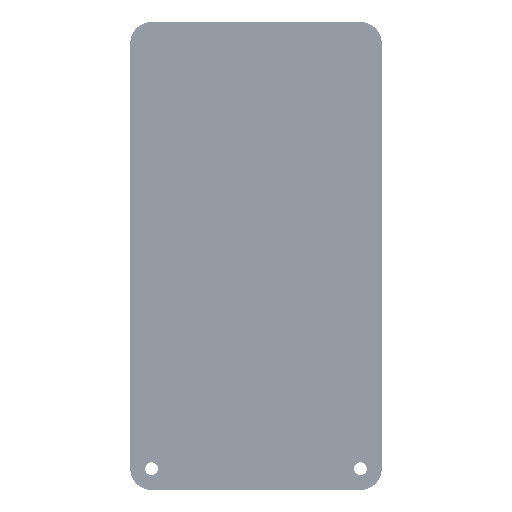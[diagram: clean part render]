
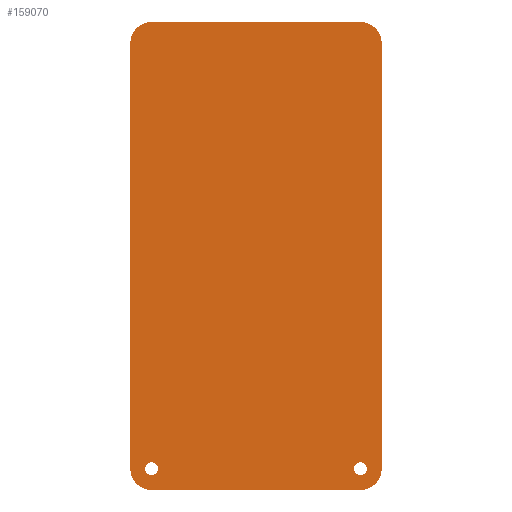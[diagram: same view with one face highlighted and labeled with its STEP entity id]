
A CAD part, front view. The second image highlights one B-rep face of the part: STEP entity #159070.
In plain terms, the highlighted planar face has unit normal (0, -1, 0) as drawn and (0, 0, 1) by its records, which use the part's own axes.
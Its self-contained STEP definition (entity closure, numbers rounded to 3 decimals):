
#6032=FACE_BOUND('',#35234,.T.);
#6033=FACE_BOUND('',#35235,.T.);
#15263=PLANE('',#170559);
#25981=FACE_OUTER_BOUND('',#35233,.T.);
#35233=EDGE_LOOP('',(#149762,#149763,#149764,#149765,#149766,#149767,#149768,
#149769));
#35234=EDGE_LOOP('',(#149770));
#35235=EDGE_LOOP('',(#149771));
#52470=LINE('',#284124,#69835);
#52483=LINE('',#284152,#69848);
#52486=LINE('',#284161,#69851);
#52514=LINE('',#284220,#69879);
#69835=VECTOR('',#207377,10.);
#69848=VECTOR('',#207400,10.);
#69851=VECTOR('',#207409,10.);
#69879=VECTOR('',#207475,10.);
#71218=CIRCLE('',#170408,1.5);
#71222=CIRCLE('',#170415,1.5);
#71228=CIRCLE('',#170529,5.);
#71231=CIRCLE('',#170535,5.);
#71232=CIRCLE('',#170538,5.);
#71233=CIRCLE('',#170541,5.);
#85013=VERTEX_POINT('',#281143);
#85017=VERTEX_POINT('',#281156);
#85465=VERTEX_POINT('',#284111);
#85466=VERTEX_POINT('',#284112);
#85470=VERTEX_POINT('',#284122);
#85478=VERTEX_POINT('',#284144);
#85480=VERTEX_POINT('',#284150);
#85481=VERTEX_POINT('',#284154);
#85482=VERTEX_POINT('',#284155);
#85483=VERTEX_POINT('',#284160);
#106280=EDGE_CURVE('',#85013,#85013,#71218,.T.);
#106286=EDGE_CURVE('',#85017,#85017,#71222,.T.);
#106948=EDGE_CURVE('',#85465,#85466,#71228,.T.);
#106954=EDGE_CURVE('',#85465,#85470,#52470,.T.);
#106965=EDGE_CURVE('',#85478,#85470,#71231,.T.);
#106969=EDGE_CURVE('',#85478,#85480,#52483,.T.);
#106970=EDGE_CURVE('',#85481,#85482,#71232,.T.);
#106973=EDGE_CURVE('',#85483,#85482,#52486,.T.);
#106978=EDGE_CURVE('',#85483,#85480,#71233,.T.);
#107003=EDGE_CURVE('',#85481,#85466,#52514,.T.);
#149762=ORIENTED_EDGE('',*,*,#106948,.F.);
#149763=ORIENTED_EDGE('',*,*,#106954,.T.);
#149764=ORIENTED_EDGE('',*,*,#106965,.F.);
#149765=ORIENTED_EDGE('',*,*,#106969,.T.);
#149766=ORIENTED_EDGE('',*,*,#106978,.F.);
#149767=ORIENTED_EDGE('',*,*,#106973,.T.);
#149768=ORIENTED_EDGE('',*,*,#106970,.F.);
#149769=ORIENTED_EDGE('',*,*,#107003,.T.);
#149770=ORIENTED_EDGE('',*,*,#106280,.T.);
#149771=ORIENTED_EDGE('',*,*,#106286,.T.);
#159070=ADVANCED_FACE('',(#25981,#6032,#6033),#15263,.T.);
#170408=AXIS2_PLACEMENT_3D('',#281145,#206715,#206716);
#170415=AXIS2_PLACEMENT_3D('',#281158,#206731,#206732);
#170529=AXIS2_PLACEMENT_3D('',#284113,#207367,#207368);
#170535=AXIS2_PLACEMENT_3D('',#284145,#207393,#207394);
#170538=AXIS2_PLACEMENT_3D('',#284156,#207403,#207404);
#170541=AXIS2_PLACEMENT_3D('',#284169,#207416,#207417);
#170559=AXIS2_PLACEMENT_3D('',#284221,#207476,#207477);
#206715=DIRECTION('center_axis',(0.,0.,-1.));
#206716=DIRECTION('ref_axis',(-1.,0.,0.));
#206731=DIRECTION('center_axis',(0.,0.,-1.));
#206732=DIRECTION('ref_axis',(-1.,0.,0.));
#207367=DIRECTION('center_axis',(0.,0.,-1.));
#207368=DIRECTION('ref_axis',(0.707,0.707,0.));
#207377=DIRECTION('',(-1.,0.,0.));
#207393=DIRECTION('center_axis',(0.,0.,-1.));
#207394=DIRECTION('ref_axis',(-0.707,0.707,0.));
#207400=DIRECTION('',(0.,-1.,0.));
#207403=DIRECTION('center_axis',(0.,0.,-1.));
#207404=DIRECTION('ref_axis',(0.707,-0.707,0.));
#207409=DIRECTION('',(1.,0.,0.));
#207416=DIRECTION('center_axis',(0.,0.,-1.));
#207417=DIRECTION('ref_axis',(-0.707,-0.707,0.));
#207475=DIRECTION('',(0.,1.,0.));
#207476=DIRECTION('center_axis',(0.,0.,1.));
#207477=DIRECTION('ref_axis',(1.,0.,0.));
#281143=CARTESIAN_POINT('',(-5.546,-102.5,3.));
#281145=CARTESIAN_POINT('Origin',(-7.046,-102.5,3.));
#281156=CARTESIAN_POINT('',(43.546,-102.5,3.));
#281158=CARTESIAN_POINT('Origin',(42.046,-102.5,3.));
#284111=CARTESIAN_POINT('',(42.046,2.5,3.));
#284112=CARTESIAN_POINT('',(47.046,-2.5,3.));
#284113=CARTESIAN_POINT('Origin',(42.046,-2.5,3.));
#284122=CARTESIAN_POINT('',(-7.046,2.5,3.));
#284124=CARTESIAN_POINT('',(47.046,2.5,3.));
#284144=CARTESIAN_POINT('',(-12.046,-2.5,3.));
#284145=CARTESIAN_POINT('Origin',(-7.046,-2.5,3.));
#284150=CARTESIAN_POINT('',(-12.046,-102.5,3.));
#284152=CARTESIAN_POINT('',(-12.046,2.5,3.));
#284154=CARTESIAN_POINT('',(47.046,-102.5,3.));
#284155=CARTESIAN_POINT('',(42.046,-107.5,3.));
#284156=CARTESIAN_POINT('Origin',(42.046,-102.5,3.));
#284160=CARTESIAN_POINT('',(-7.046,-107.5,3.));
#284161=CARTESIAN_POINT('',(-12.046,-107.5,3.));
#284169=CARTESIAN_POINT('Origin',(-7.046,-102.5,3.));
#284220=CARTESIAN_POINT('',(47.046,-107.5,3.));
#284221=CARTESIAN_POINT('Origin',(17.5,-52.5,3.));
